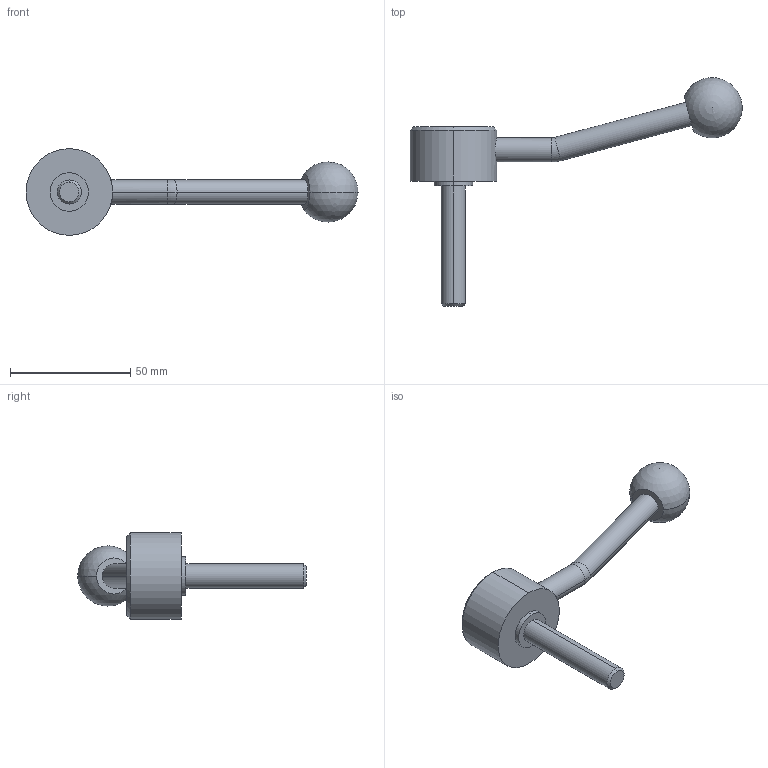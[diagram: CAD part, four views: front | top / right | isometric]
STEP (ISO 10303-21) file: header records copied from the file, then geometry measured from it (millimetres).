
FILE_DESCRIPTION (( 'STEP AP214' ), '1' );
FILE_NAME ('125.5-36-M10-50-E.step', '2020-02-18T11:31:51', ( '' ), ( '' ), 'SwSTEP 2.0', 'SolidWorks 2019', '' );
FILE_SCHEMA (( 'AUTOMOTIVE_DESIGN' ));
Length unit declared in the file: millimetre
Products named in the file (1): 125.5-36-M10-50-E
Bounding box: 137.95 x 95 x 36 mm (x, y, z)
Volume: 41578.9 mm3; surface area: 10508.5 mm2
Topology: 1 solids, 1 shells, 26 faces, 55 edges, 34 vertices
Faces by surface type: cylinder 12, plane 6, cone 4, torus 2, sphere 2
Entity records: 840 total; most frequent: CARTESIAN_POINT 182, DIRECTION 134, ORIENTED_EDGE 100, AXIS2_PLACEMENT_3D 59, EDGE_CURVE 50, CIRCLE 32, VERTEX_POINT 31, EDGE_LOOP 31
